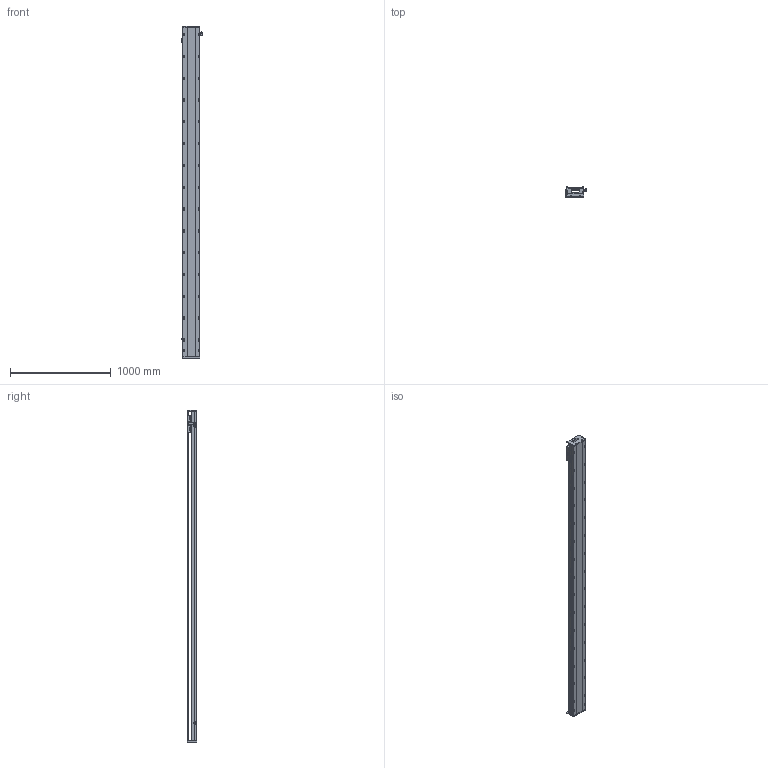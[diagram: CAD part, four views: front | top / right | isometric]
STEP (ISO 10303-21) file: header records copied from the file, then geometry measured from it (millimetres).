
FILE_DESCRIPTION (( 'STEP AP203' ), '1' );
FILE_NAME ('SKR17S-C1-S3018（简）.STEP', '2022-09-29T06:53:53', ( '' ), ( '' ), 'SwSTEP 2.0', 'SolidWorks 2018', '' );
FILE_SCHEMA (( 'CONFIG_CONTROL_DESIGN' ));
Length unit declared in the file: millimetre
Products named in the file (8): 棠掑假蚾輸; 感应片（SKR12S-14S-17S）; EE-SX672; SIKO棠掑; SKR17耜啣; SKR17S-C1-S3018（简）; SKR17底座-C1-S3018（简); SKR17滑台-170L（简）
Assembly tree (10 placements, depth 2):
  SKR17S-C1-S3018（简）
    SKR17底座-C1-S3018（简)
    SKR17滑台-170L（简）
    SIKO棠掑
    EE-SX672  x3
    SKR17耜啣  x2
    棠掑假蚾輸
    感应片（SKR12S-14S-17S）
Bounding box: 212.7 x 97 x 3288 mm (x, y, z)
Volume: 24868947.7 mm3; surface area: 2970770.9 mm2
Topology: 11 solids, 11 shells, 1569 faces, 4396 edges, 2825 vertices
Faces by surface type: cylinder 806, plane 607, cone 156
Entity records: 50566 total; most frequent: CARTESIAN_POINT 14585, ORIENTED_EDGE 7740, DIRECTION 6864, EDGE_CURVE 3870, VERTEX_POINT 2529, AXIS2_PLACEMENT_3D 2456, LINE 1952, VECTOR 1952
